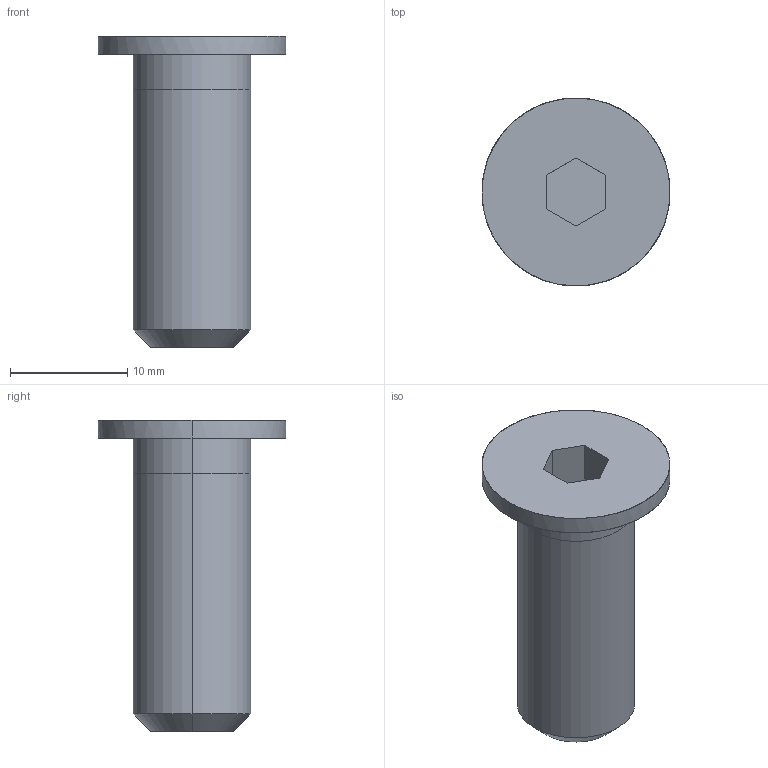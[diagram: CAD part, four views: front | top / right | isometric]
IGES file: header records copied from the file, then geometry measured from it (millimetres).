
Global section: file name: E:\UnigraphicsGraphicData\MISUMI_PRESS-PARTS\IGES\3d_cbss10-25_03495_r00.igs; native system: NX V5.0; preprocessor: UGS NX IGES V5.0; author: MISUMI; date: 20110105.160201; units: millimetre
Bounding box: 16 x 16 x 26.5 mm (x, y, z)
Surface area: 1320.2 mm2 (no closed solid volume)
Topology: 0 solids, 0 shells, 18 faces, 100 edges, 100 vertices
Faces by surface type: bspline 18
